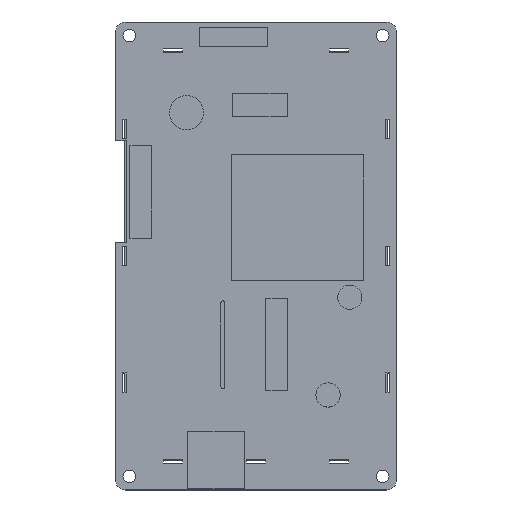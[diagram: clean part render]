
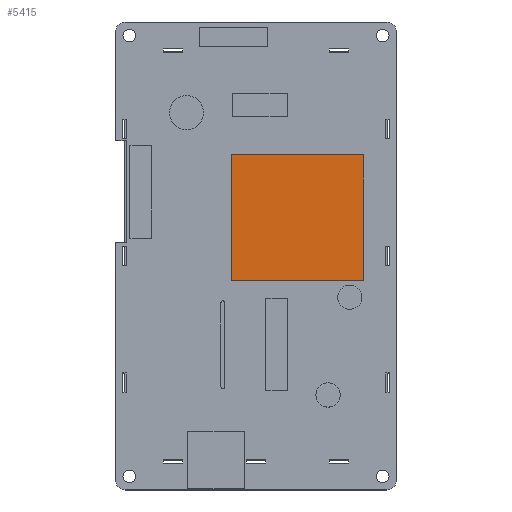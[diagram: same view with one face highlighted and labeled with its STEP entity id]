
A CAD part, top view. The second image highlights one B-rep face of the part: STEP entity #5415.
In plain terms, the highlighted planar face has unit normal (0, 0, 1).
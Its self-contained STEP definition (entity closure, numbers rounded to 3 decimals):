
#1609=DIRECTION('',(-1.,0.,0.));
#1610=VECTOR('',#1609,34.417);
#1611=CARTESIAN_POINT('',(28.105,26.34,5.2));
#1612=LINE('',#1611,#1610);
#1613=DIRECTION('',(0.,1.,0.));
#1614=VECTOR('',#1613,32.766);
#1615=CARTESIAN_POINT('',(28.105,-6.426,5.2));
#1616=LINE('',#1615,#1614);
#1617=DIRECTION('',(1.,0.,0.));
#1618=VECTOR('',#1617,34.417);
#1619=CARTESIAN_POINT('',(-6.312,-6.426,5.2));
#1620=LINE('',#1619,#1618);
#1621=DIRECTION('',(0.,-1.,0.));
#1622=VECTOR('',#1621,32.766);
#1623=CARTESIAN_POINT('',(-6.312,26.34,5.2));
#1624=LINE('',#1623,#1622);
#1983=CARTESIAN_POINT('',(28.105,26.34,5.2));
#1984=CARTESIAN_POINT('',(-6.312,26.34,5.2));
#1985=VERTEX_POINT('',#1983);
#1986=VERTEX_POINT('',#1984);
#1987=CARTESIAN_POINT('',(-6.312,-6.426,5.2));
#1988=VERTEX_POINT('',#1987);
#1989=CARTESIAN_POINT('',(28.105,-6.426,5.2));
#1990=VERTEX_POINT('',#1989);
#5404=CARTESIAN_POINT('',(-36.576,3.48,5.2));
#5405=DIRECTION('',(0.,0.,1.));
#5406=DIRECTION('',(0.,-1.,0.));
#5407=AXIS2_PLACEMENT_3D('',#5404,#5405,#5406);
#5408=PLANE('',#5407);
#5409=ORIENTED_EDGE('',*,*,#5328,.F.);
#5410=ORIENTED_EDGE('',*,*,#5350,.F.);
#5411=ORIENTED_EDGE('',*,*,#5371,.F.);
#5412=ORIENTED_EDGE('',*,*,#5391,.F.);
#5413=EDGE_LOOP('',(#5409,#5410,#5411,#5412));
#5414=FACE_OUTER_BOUND('',#5413,.F.);
#5328=EDGE_CURVE('',#1985,#1986,#1612,.T.);
#5350=EDGE_CURVE('',#1990,#1985,#1616,.T.);
#5371=EDGE_CURVE('',#1988,#1990,#1620,.T.);
#5391=EDGE_CURVE('',#1986,#1988,#1624,.T.);
#5415=ADVANCED_FACE('',(#5414),#5408,.T.);
